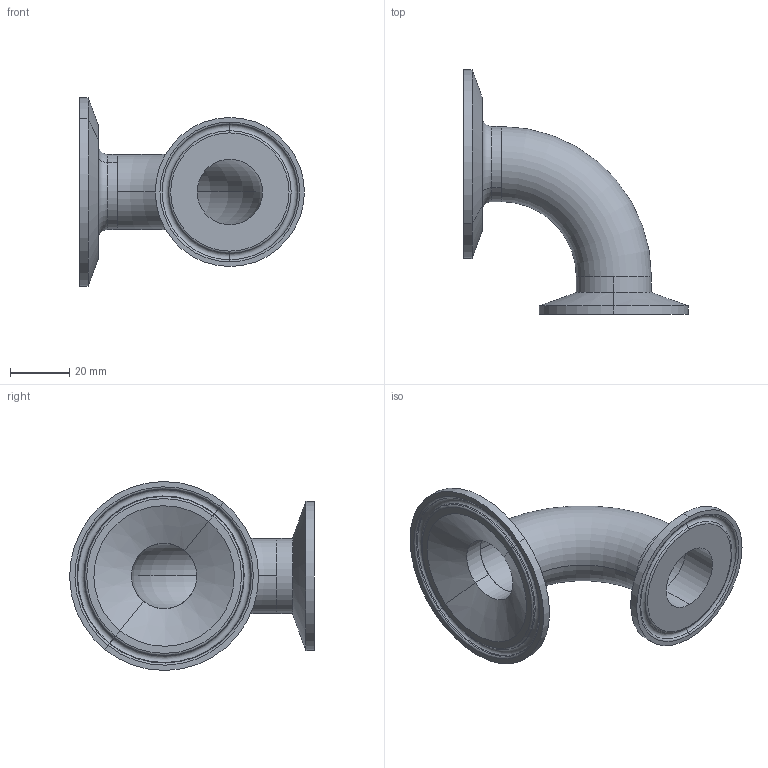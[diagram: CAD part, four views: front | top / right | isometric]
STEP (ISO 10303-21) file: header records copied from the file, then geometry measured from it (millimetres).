
FILE_DESCRIPTION (( 'STEP AP203' ), '1' );
FILE_NAME ('EG2C31CC2.0X1.0.STEP', '2018-05-07T13:53:06', ( 'vneprd' ), ( 'Microsoft' ), 'SwSTEP 2.0', 'SolidWorks 2014', '' );
FILE_SCHEMA (( 'CONFIG_CONTROL_DESIGN' ));
Length unit declared in the file: inch
Products named in the file (4): 2WCL1.0; EG2CS1.0; EG2CS31D2.0X1.0; EG2C31CC2.0X1.0
Assembly tree (3 placements, depth 2):
  EG2C31CC2.0X1.0
    2WCL1.0
    EG2CS1.0
    EG2CS31D2.0X1.0
Bounding box: 76 x 82.75 x 63.9 mm (x, y, z)
Volume: 27292.7 mm3; surface area: 21983.7 mm2
Topology: 3 solids, 3 shells, 51 faces, 102 edges, 58 vertices
Faces by surface type: torus 18, cone 14, cylinder 12, plane 7
Entity records: 1766 total; most frequent: DIRECTION 292, CARTESIAN_POINT 217, ORIENTED_EDGE 204, AXIS2_PLACEMENT_3D 133, EDGE_CURVE 102, CIRCLE 76, VERTEX_POINT 58, EDGE_LOOP 58
